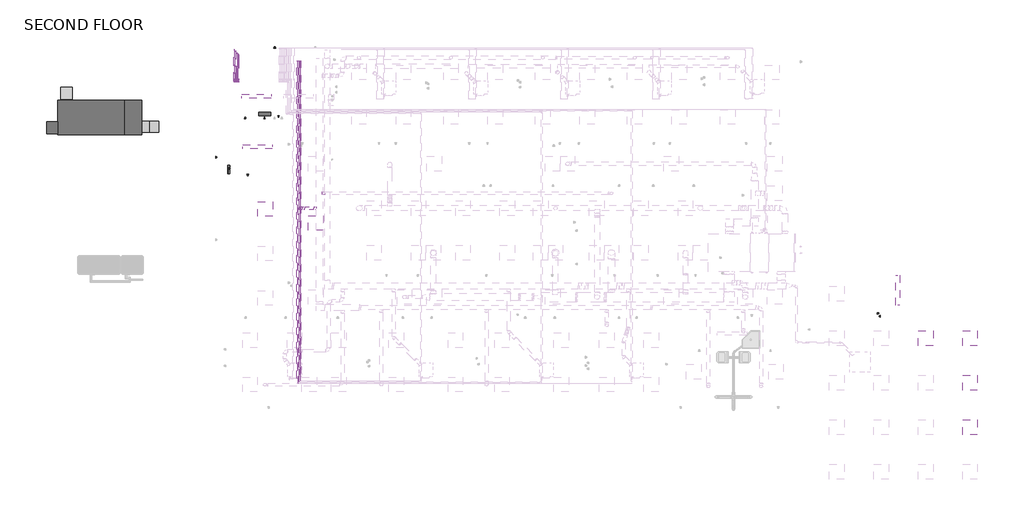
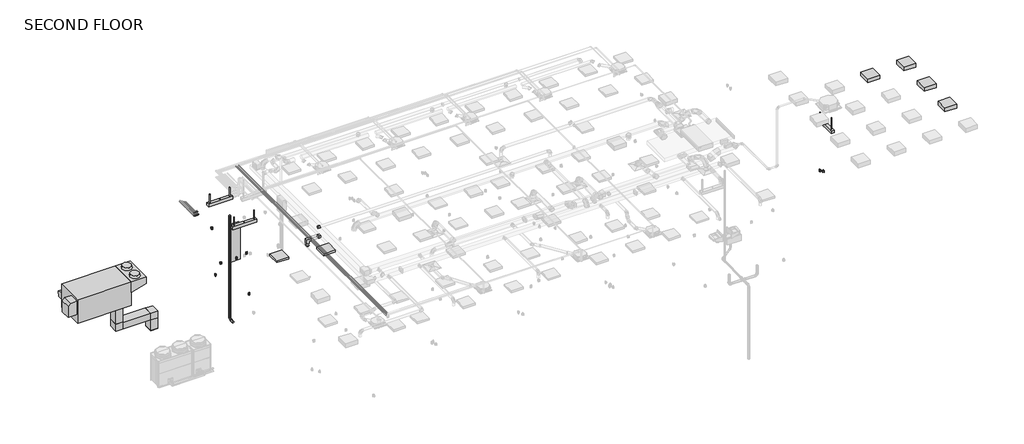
# One storey, part 6 of 12: 22 pipe segments, 19 pipe fittings, 9 light fixtures, 7 duct fittings, 7 proxies, 5 duct segments, 2 switching devices, 1 electric appliance.
"""IFC4 building model written with IfcOpenShell, lengths in millimetres."""

from ifc_helpers import new_model, si_unit, point, frame, frame_2d, origin, place, context, project, spatial, polyline, circle_curve, trimmed, segment, composite_curve, outline, extrude, transform, mapped, element, save
from components import duplex_receptacle_countertop_10251bba, erv_unit_62530c4e, lighting_and_appliance_panelboard_208v_mcb_surface_400_a_1492eeec, rectangular_elbow_mitered_transition_standard_b8ebfeb0, rectangular_elbow_mitered_standard_39dc9af9, rectangular_endcap_standard_943f7e42, rectangular_takeoff_standard_69442764, rectangular_to_round_transition_angle_45_degree_d16902a5, round_takeoff_standard_7fe2b2d5, telephone_outlet_data_plain_18c24199, suspended_fluorescent_strip_non_hosted_strip_light_1x4_120v_a3f3b401, suspended_fluorescent_strip_non_hosted_strip_light_1x4_120v_a5e6163e, troffer_corner_insert_2x2_3_lamp_emergency_29e3a813, troffer_corner_insert_2x2_3lamp_e67c7f8f, bend_pvc_sch_40_dwv_standard_f7db62e3, elbow_generic_standard_c06ac706, elbow_generic_standard_a088f956, elbow_generic_standard_ad6a8f26, transition_generic_standard_0bb1ffaf

model = new_model("IFC4")

# Units and contexts
model_context = context("Model", 3, world=origin())
ifc_project = project(units=[si_unit("LENGTHUNIT", "METRE", prefix="MILLI")], contexts=[model_context])

# Site, building, storey
site = spatial("IfcSite", under=ifc_project)
building = spatial("IfcBuilding", under=site)
storey = spatial("IfcBuildingStorey", under=building, Name="SECOND FLOOR", Elevation=34544.0)

# Proxies
placement = place(None, origin())
duplex_receptacle_countertop_shape = duplex_receptacle_countertop_10251bba(model_context)
element("IfcBuildingElementProxy", 1, Name="Duplex Receptacle : Exterior", ObjectType="Duplex Receptacle : Exterior", at=placement, inside=storey, context=model_context, shape_type="MappedRepresentation", body=[
    mapped(duplex_receptacle_countertop_shape, transform((-10616.2454607, 3175.2222588, 35763.2), x_axis=(0.0, -1.0, 0.0), y_axis=(0.0, 0.0, 1.0), z_axis=(-1.0, 0.0, 0.0))),
])
element("IfcBuildingElementProxy", 2, Name="Duplex Receptacle : Standard", ObjectType="Duplex Receptacle : Standard", at=placement, inside=storey, context=model_context, shape_type="MappedRepresentation", body=[
    mapped(duplex_receptacle_countertop_shape, transform((-9404.6633655, 4757.1445005, 35001.2), x_axis=(1.0, 0.0, 0.0), y_axis=(0.0, 0.0, 1.0), z_axis=(0.0, -1.0, 0.0))),
])
element("IfcBuildingElementProxy", 3, Name="Duplex Receptacle : Standard", ObjectType="Duplex Receptacle : Standard", at=placement, inside=storey, context=model_context, shape_type="MappedRepresentation", body=[
    mapped(duplex_receptacle_countertop_shape, transform((-8606.7536655, 4757.1445005, 35001.2), x_axis=(1.0, 0.0, 0.0), y_axis=(0.0, 0.0, 1.0), z_axis=(0.0, -1.0, 0.0))),
])
element("IfcBuildingElementProxy", 4, Name="Duplex Receptacle : Standard", ObjectType="Duplex Receptacle : Standard", at=placement, inside=storey, context=model_context, shape_type="MappedRepresentation", body=[
    mapped(duplex_receptacle_countertop_shape, transform((-9296.8227016, 2471.1445005, 34696.4), x_axis=(-1.0, 0.0, 0.0), y_axis=(0.0, 0.0, 1.0), z_axis=(0.0, 1.0, 0.0))),
])
element("IfcBuildingElementProxy", 5, Name="Duplex Receptacle : Standard", ObjectType="Duplex Receptacle : Standard", at=placement, inside=storey, context=model_context, shape_type="MappedRepresentation", body=[
    mapped(duplex_receptacle_countertop_shape, transform((-8185.6346572, 7671.7945005, 34696.4), x_axis=(1.0, 0.0, 0.0), y_axis=(0.0, 0.0, 1.0), z_axis=(0.0, -1.0, 0.0))),
])
erv_unit_shape = erv_unit_62530c4e(model_context)
element("IfcBuildingElementProxy", 6, Name="Energy Recovery-ER_H : ERV Unit", ObjectType="Energy Recovery-ER_H : ERV Unit", at=placement, inside=storey, context=model_context, shape_type="MappedRepresentation", body=[
    mapped(erv_unit_shape, transform((-16940.9565088, 4788.6445412, 34899.6), x_axis=(1.0000000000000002, 0.0, 0.0), y_axis=(0.0, 1.0000000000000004, 0.0), z_axis=(0.0, 0.0, 1.0000000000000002))),
])
lighting_and_appliance_panelboard_208v_mcb_surface_400_a_shape = lighting_and_appliance_panelboard_208v_mcb_surface_400_a_1492eeec(model_context)
element("IfcBuildingElementProxy", 7, Name="Lighting and Appliance Panelboard - 208V MCB - Surface : 400 A", ObjectType="Lighting and Appliance Panelboard - 208V MCB - Surface : 400 A", at=placement, inside=storey, context=model_context, shape_type="MappedRepresentation", body=[
    mapped(lighting_and_appliance_panelboard_208v_mcb_surface_400_a_shape, transform((-8504.4074234, 4880.9695005, 35999.3056703), x_axis=(-1.0, 0.0, 0.0), y_axis=(0.0, 0.0, 1.0), z_axis=(0.0, 1.0, 0.0))),
])

# Duct fittings
rectangular_elbow_mitered_transition_standard_shape = rectangular_elbow_mitered_transition_standard_b8ebfeb0(model_context)
element("IfcDuctFitting", 8, ObjectType="Rectangular Elbow - Mitered - Transition : Standard", at=placement, inside=storey, context=model_context, shape_type="MappedRepresentation", body=[
    mapped(rectangular_elbow_mitered_transition_standard_shape, transform((-7114.2204607, 1077.3195005, 37693.6), x_axis=(-1.0, 0.0, 0.0), y_axis=(0.0, 0.0, -1.0), z_axis=(0.0, -1.0, 0.0))),
])
rectangular_elbow_mitered_standard_shape = rectangular_elbow_mitered_standard_39dc9af9(model_context)
element("IfcDuctFitting", 9, ObjectType="Rectangular Elbow - Mitered : Standard", at=placement, inside=storey, context=model_context, shape_type="MappedRepresentation", body=[
    mapped(rectangular_elbow_mitered_standard_shape, transform((-14924.7204607, 4430.1195005, 33832.8), x_axis=(0.0, 0.0, -1.0), y_axis=(1.0, 0.0, 0.0), z_axis=(0.0, -1.0, 0.0))),
])
element("IfcDuctFitting", 10, ObjectType="Rectangular Elbow - Mitered : Standard", at=placement, inside=storey, context=model_context, shape_type="MappedRepresentation", body=[
    mapped(rectangular_elbow_mitered_standard_shape, transform((-13138.544811, 4430.1195005, 33832.8), x_axis=(0.0, 0.0, 1.0), y_axis=(-1.0, 0.0, 0.0), z_axis=(0.0, -1.0, 0.0))),
])
rectangular_endcap_standard_shape = rectangular_endcap_standard_943f7e42(model_context)
element("IfcDuctFitting", 11, ObjectType="Rectangular Endcap : Standard", at=placement, inside=storey, context=model_context, shape_type="MappedRepresentation", body=[
    mapped(rectangular_endcap_standard_shape, transform((-13138.544811, 4430.1195005, 33070.8), x_axis=(0.0, 0.0, -1.0), y_axis=(0.0, 1.0, 0.0), z_axis=(1.0, 0.0, 0.0))),
])
rectangular_takeoff_standard_shape = rectangular_takeoff_standard_69442764(model_context)
element("IfcDuctFitting", 12, ObjectType="Rectangular Takeoff : Standard", at=placement, inside=storey, context=model_context, shape_type="MappedRepresentation", body=[
    mapped(rectangular_takeoff_standard_shape, transform((-6474.3126806, 1077.3195005, 37693.6), x_axis=(-1.0, 0.0, 0.0), y_axis=(0.0, 1.0, 0.0), z_axis=(0.0, 0.0, -1.0))),
])
rectangular_to_round_transition_angle_45_degree_shape = rectangular_to_round_transition_angle_45_degree_d16902a5(model_context)
element("IfcDuctFitting", 13, ObjectType="Rectangular to Round Transition - Angle : 45 Degree", at=placement, inside=storey, context=model_context, shape_type="MappedRepresentation", body=[
    mapped(rectangular_to_round_transition_angle_45_degree_shape, transform((-7114.2204607, 1077.3195005, 37420.55), x_axis=(0.0, 0.0, -1.0), y_axis=(-1.0, 0.0, 0.0), z_axis=(0.0, 1.0, 0.0))),
])
round_takeoff_standard_shape = round_takeoff_standard_7fe2b2d5(model_context)
element("IfcDuctFitting", 14, ObjectType="Round Takeoff : Standard", at=placement, inside=storey, context=model_context, shape_type="MappedRepresentation", body=[
    mapped(round_takeoff_standard_shape, transform((-6220.3126806, 1686.9195005, 37693.6), x_axis=(1.0, 0.0, 0.0), y_axis=(0.0, 1.0, 0.0), z_axis=(0.0, 0.0, 1.0))),
])

# Duct segments
element("IfcDuctSegment", 15, ObjectType="Mitered Elbows / Taps", at=placement, inside=storey, context=model_context, shape_type="SweptSolid", body=[
    extrude(outline(polyline([(-13316.344811, 4658.7195005), (-12960.744811, 4658.7195005), (-12960.744811, 4201.5195005), (-13316.344811, 4201.5195005), (-13316.344811, 4658.7195005)])), frame((0.0, 0.0, 33070.8), z_axis=(0.0, 0.0, 1.0), x_axis=(1.0, 0.0, 0.0)), (0.0, 0.0, 1.0), 558.8),
])
element("IfcDuctSegment", 16, ObjectType="Mitered Elbows / Taps", at=placement, inside=storey, context=model_context, shape_type="SweptSolid", body=[
    extrude(outline(polyline([(-15102.5204607, 4658.7195005), (-14746.9204607, 4658.7195005), (-14746.9204607, 4201.5195005), (-15102.5204607, 4201.5195005), (-15102.5204607, 4658.7195005)])), frame((0.0, 0.0, 34036.0), z_axis=(0.0, 0.0, 1.0), x_axis=(1.0, 0.0, 0.0)), (0.0, 0.0, 1.0), 812.8),
])
element("IfcDuctSegment", 17, ObjectType="Mitered Elbows / Taps", at=placement, inside=storey, context=model_context, shape_type="SweptSolid", body=[
    extrude(outline(polyline([(-14721.5204607, 4201.5195005), (-14721.5204607, 4658.7195005), (-13341.744811, 4658.7195005), (-13341.744811, 4201.5195005), (-14721.5204607, 4201.5195005)])), frame((0.0, 0.0, 33655.0), z_axis=(0.0, 0.0, 1.0), x_axis=(1.0, 0.0, 0.0)), (0.0, 0.0, 1.0), 355.6),
])
element("IfcDuctSegment", 18, ObjectType="Mitered Elbows / Taps", at=placement, inside=storey, context=model_context, shape_type="SweptSolid", body=[
    extrude(outline(polyline([(-7050.7204607, 1013.8195005), (-7177.7204607, 1013.8195005), (-7177.7204607, 1140.8195005), (-7050.7204607, 1140.8195005), (-7050.7204607, 1013.8195005)])), frame((0.0, 0.0, 37420.55), z_axis=(0.0, 0.0, 1.0), x_axis=(1.0, 0.0, 0.0)), (0.0, 0.0, 1.0), 107.95),
])
element("IfcDuctSegment", 19, ObjectType="Mitered Elbows / Taps", at=placement, inside=storey, context=model_context, shape_type="SweptSolid", body=[
    extrude(outline(polyline([(-6575.9126806, 1140.8195005), (-6575.9126806, 1013.8195005), (-6949.1204607, 1013.8195005), (-6949.1204607, 1140.8195005), (-6575.9126806, 1140.8195005)])), frame((0.0, 0.0, 37630.1), z_axis=(0.0, 0.0, 1.0), x_axis=(1.0, 0.0, 0.0)), (0.0, 0.0, 1.0), 127.0),
])

# Electric appliance
telephone_outlet_data_plain_shape = telephone_outlet_data_plain_18c24199(model_context)
element("IfcElectricAppliance", 20, ObjectType="Telephone Outlet - Data : Plain", at=placement, inside=storey, context=model_context, shape_type="MappedRepresentation", body=[
    mapped(telephone_outlet_data_plain_shape, transform((-8911.5173872, 4880.9695005, 34143.95), x_axis=(-1.0, 0.0, 0.0), y_axis=(0.0, 0.0, 1.0), z_axis=(0.0, 1.0, 0.0))),
])

# Light fixtures
suspended_fluorescent_strip_non_hosted_strip_light_1x4_120v_shape = suspended_fluorescent_strip_non_hosted_strip_light_1x4_120v_a3f3b401(model_context)
element("IfcLightFixture", 21, ObjectType="Suspended Fluorescent Strip - Non-Hosted : Strip Light 1x4 - 120V Normal", at=placement, inside=storey, context=model_context, shape_type="MappedRepresentation", body=[
    mapped(suspended_fluorescent_strip_non_hosted_strip_light_1x4_120v_shape, transform((-8934.2892107, 5679.9210752, 37592.0), x_axis=(1.0, 0.0, 0.0), y_axis=(0.0, 1.0, 0.0), z_axis=(0.0, 0.0, 1.0))),
])
element("IfcLightFixture", 22, ObjectType="Suspended Fluorescent Strip - Non-Hosted : Strip Light 1x4 - 120V Normal", at=placement, inside=storey, context=model_context, shape_type="MappedRepresentation", body=[
    mapped(suspended_fluorescent_strip_non_hosted_strip_light_1x4_120v_shape, transform((-8889.8863587, 3607.272796, 37592.0), x_axis=(1.0, 0.0, 0.0), y_axis=(0.0, 1.0, 0.0), z_axis=(0.0, 0.0, 1.0))),
])
suspended_fluorescent_strip_non_hosted_strip_light_1x4_120v_2_shape = suspended_fluorescent_strip_non_hosted_strip_light_1x4_120v_a5e6163e(model_context)
element("IfcLightFixture", 23, ObjectType="Suspended Fluorescent Strip - Non-Hosted : Strip Light 1x4 - 120V Normal", at=placement, inside=storey, context=model_context, shape_type="MappedRepresentation", body=[
    mapped(suspended_fluorescent_strip_non_hosted_strip_light_1x4_120v_2_shape, transform((17450.9604425, -2302.0646313, 37287.2), x_axis=(0.0, 1.0000000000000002, 0.0), y_axis=(-1.0000000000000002, 0.0, 0.0), z_axis=(0.0, 0.0, 1.0))),
])
troffer_corner_insert_2x2_3_lamp_emergency_shape = troffer_corner_insert_2x2_3_lamp_emergency_29e3a813(model_context)
element("IfcLightFixture", 24, ObjectType="Troffer Corner Insert : 2x2 3 Lamp Emergency", at=placement, inside=storey, context=model_context, shape_type="MappedRepresentation", body=[
    mapped(troffer_corner_insert_2x2_3_lamp_emergency_shape, transform((20424.7445338, -6104.5304995, 38303.2), x_axis=(1.0, 0.0, 0.0), y_axis=(0.0, 1.0, 0.0), z_axis=(0.0, 0.0, 1.0))),
])
troffer_corner_insert_2x2_3lamp_shape = troffer_corner_insert_2x2_3lamp_e67c7f8f(model_context)
element("IfcLightFixture", 25, ObjectType="Troffer Corner Insert : 2x2 3Lamp", at=placement, inside=storey, context=model_context, shape_type="MappedRepresentation", body=[
    mapped(troffer_corner_insert_2x2_3lamp_shape, transform((-6504.6204607, 467.7195005, 34848.8), x_axis=(1.0, 0.0, 0.0), y_axis=(0.0, 1.0, 0.0), z_axis=(0.0, 0.0, 1.0))),
])
element("IfcLightFixture", 26, ObjectType="Troffer Corner Insert : 2x2 3Lamp", at=placement, inside=storey, context=model_context, shape_type="MappedRepresentation", body=[
    mapped(troffer_corner_insert_2x2_3lamp_shape, transform((-8574.7204607, 1040.8070005, 34848.8), x_axis=(1.0, 0.0, 0.0), y_axis=(0.0, 1.0, 0.0), z_axis=(0.0, 0.0, 1.0))),
])
element("IfcLightFixture", 27, ObjectType="Troffer Corner Insert : 2x2 3Lamp High Profile", at=placement, inside=storey, context=model_context, shape_type="MappedRepresentation", body=[
    mapped(troffer_corner_insert_2x2_3_lamp_emergency_shape, transform((20424.7445338, -7933.3304995, 38303.2), x_axis=(1.0, 0.0, 0.0), y_axis=(0.0, 1.0, 0.0), z_axis=(0.0, 0.0, 1.0))),
])
element("IfcLightFixture", 28, ObjectType="Troffer Corner Insert : 2x2 3Lamp High Profile", at=placement, inside=storey, context=model_context, shape_type="MappedRepresentation", body=[
    mapped(troffer_corner_insert_2x2_3_lamp_emergency_shape, transform((18595.9445338, -4275.7304995, 38303.2), x_axis=(1.0, 0.0, 0.0), y_axis=(0.0, 1.0, 0.0), z_axis=(0.0, 0.0, 1.0))),
])
element("IfcLightFixture", 29, ObjectType="Troffer Corner Insert : 2x2 3Lamp High Profile", at=placement, inside=storey, context=model_context, shape_type="MappedRepresentation", body=[
    mapped(troffer_corner_insert_2x2_3_lamp_emergency_shape, transform((20424.7445338, -4275.7304995, 38303.2), x_axis=(1.0, 0.0, 0.0), y_axis=(0.0, 1.0, 0.0), z_axis=(0.0, 0.0, 1.0))),
])

# Pipe fittings
bend_pvc_sch_40_dwv_standard_shape = bend_pvc_sch_40_dwv_standard_f7db62e3(model_context)
element("IfcPipeFitting", 30, ObjectType="Bend - PVC - Sch 40 - DWV : Standard", at=placement, inside=storey, context=model_context, shape_type="MappedRepresentation", body=[
    mapped(bend_pvc_sch_40_dwv_standard_shape, transform((-10076.4954607, 2802.8315733, 33416.4117738), x_axis=(0.0, 0.9999456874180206, 0.01042219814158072), y_axis=(0.0, -0.01042219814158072, 0.9999456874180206), z_axis=(1.0, 0.0, 0.0))),
])
elbow_generic_standard_shape = elbow_generic_standard_c06ac706(model_context)
element("IfcPipeFitting", 31, ObjectType="Elbow - Generic : Standard", at=placement, inside=storey, context=model_context, shape_type="MappedRepresentation", body=[
    mapped(elbow_generic_standard_shape, transform((-9866.3353043, 6273.907626, 36811.1484375), x_axis=(0.0, -1.0, 0.0), y_axis=(0.0, 0.0, 1.0), z_axis=(-1.0, 0.0, 0.0))),
])
element("IfcPipeFitting", 32, ObjectType="Elbow - Generic : Standard", at=placement, inside=storey, context=model_context, shape_type="MappedRepresentation", body=[
    mapped(elbow_generic_standard_shape, transform((-9866.3353043, 6273.907626, 36830.0), x_axis=(0.0, 0.0, 1.0), y_axis=(0.0, 1.0, 0.0), z_axis=(-1.0, 0.0, 0.0))),
])
element("IfcPipeFitting", 33, ObjectType="Elbow - Generic : Standard", at=placement, inside=storey, context=model_context, shape_type="MappedRepresentation", body=[
    mapped(elbow_generic_standard_shape, transform((-9806.3353043, 6273.9076209, 36811.1484375), x_axis=(0.0, -1.0, 0.0), y_axis=(0.0, 0.0, 1.0), z_axis=(-1.0, 0.0, 0.0))),
])
element("IfcPipeFitting", 34, ObjectType="Elbow - Generic : Standard", at=placement, inside=storey, context=model_context, shape_type="MappedRepresentation", body=[
    mapped(elbow_generic_standard_shape, transform((-9806.3353043, 6273.9076209, 36830.0), x_axis=(0.0, 0.0, 1.0), y_axis=(0.0, 1.0, 0.0), z_axis=(-1.0, 0.0, 0.0))),
])
element("IfcPipeFitting", 35, ObjectType="Elbow - Generic : Standard", at=placement, inside=storey, context=model_context, shape_type="MappedRepresentation", body=[
    mapped(elbow_generic_standard_shape, transform((-9746.3353043, 6273.9076209, 36811.1484375), x_axis=(0.0, -1.0, 0.0), y_axis=(0.0, 0.0, 1.0), z_axis=(-1.0, 0.0, 0.0))),
])
element("IfcPipeFitting", 36, ObjectType="Elbow - Generic : Standard", at=placement, inside=storey, context=model_context, shape_type="MappedRepresentation", body=[
    mapped(elbow_generic_standard_shape, transform((-9746.3353043, 6273.9076209, 36830.0), x_axis=(0.0, 0.0, 1.0), y_axis=(0.0, 1.0, 0.0), z_axis=(-1.0, 0.0, 0.0))),
])
element("IfcPipeFitting", 37, ObjectType="Elbow - Generic : Standard", at=placement, inside=storey, context=model_context, shape_type="MappedRepresentation", body=[
    mapped(elbow_generic_standard_shape, transform((-9686.3353043, 6273.9076209, 36811.1484375), x_axis=(0.0, -1.0, 0.0), y_axis=(0.0, 0.0, 1.0), z_axis=(-1.0, 0.0, 0.0))),
])
element("IfcPipeFitting", 38, ObjectType="Elbow - Generic : Standard", at=placement, inside=storey, context=model_context, shape_type="MappedRepresentation", body=[
    mapped(elbow_generic_standard_shape, transform((-9686.3353043, 6273.9076209, 36830.0), x_axis=(0.0, 0.0, 1.0), y_axis=(0.0, 1.0, 0.0), z_axis=(-1.0, 0.0, 0.0))),
])
elbow_generic_standard_2_shape = elbow_generic_standard_a088f956(model_context)
element("IfcPipeFitting", 39, ObjectType="Elbow - Generic : Standard", at=placement, inside=storey, context=model_context, shape_type="MappedRepresentation", body=[
    mapped(elbow_generic_standard_2_shape, transform((-9866.3353043, 6324.7076245, 36779.2), x_axis=(0.0, 0.0, 1.0), y_axis=(0.0, 1.0, 0.0), z_axis=(-1.0, 0.0, 0.0))),
])
element("IfcPipeFitting", 40, ObjectType="Elbow - Generic : Standard", at=placement, inside=storey, context=model_context, shape_type="MappedRepresentation", body=[
    mapped(elbow_generic_standard_2_shape, transform((-9806.3353043, 6324.7076209, 36779.2), x_axis=(0.0, 0.0, 1.0), y_axis=(0.0, 1.0, 0.0), z_axis=(-1.0, 0.0, 0.0))),
])
element("IfcPipeFitting", 41, ObjectType="Elbow - Generic : Standard", at=placement, inside=storey, context=model_context, shape_type="MappedRepresentation", body=[
    mapped(elbow_generic_standard_2_shape, transform((-9746.3353043, 6324.7076209, 36779.2), x_axis=(0.0, 0.0, 1.0), y_axis=(0.0, 1.0, 0.0), z_axis=(-1.0, 0.0, 0.0))),
])
element("IfcPipeFitting", 42, ObjectType="Elbow - Generic : Standard", at=placement, inside=storey, context=model_context, shape_type="MappedRepresentation", body=[
    mapped(elbow_generic_standard_2_shape, transform((-9686.3353043, 6324.7076209, 36779.2), x_axis=(0.0, 0.0, 1.0), y_axis=(0.0, 1.0, 0.0), z_axis=(-1.0, 0.0, 0.0))),
])
elbow_generic_standard_3_shape = elbow_generic_standard_ad6a8f26(model_context)
element("IfcPipeFitting", 43, ObjectType="Elbow - Generic : Standard", at=placement, inside=storey, context=model_context, shape_type="MappedRepresentation", body=[
    mapped(elbow_generic_standard_3_shape, transform((-9866.3353043, 6324.7076245, 36941.125), x_axis=(0.0, -0.9999999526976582, -0.00030757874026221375), y_axis=(0.0, -0.00030757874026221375, 0.9999999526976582), z_axis=(-1.0, 0.0, 0.0))),
])
element("IfcPipeFitting", 44, ObjectType="Elbow - Generic : Standard", at=placement, inside=storey, context=model_context, shape_type="MappedRepresentation", body=[
    mapped(elbow_generic_standard_3_shape, transform((-9806.3353043, 6324.7076209, 36941.125), x_axis=(0.0, -0.9999999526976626, -0.0003075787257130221), y_axis=(0.0, -0.0003075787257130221, 0.9999999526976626), z_axis=(-1.0, 0.0, 0.0))),
])
element("IfcPipeFitting", 45, ObjectType="Elbow - Generic : Standard", at=placement, inside=storey, context=model_context, shape_type="MappedRepresentation", body=[
    mapped(elbow_generic_standard_3_shape, transform((-9746.3353043, 6324.7076209, 36941.125), x_axis=(0.0, -0.9999999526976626, -0.0003075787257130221), y_axis=(0.0, -0.0003075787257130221, 0.9999999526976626), z_axis=(-1.0, 0.0, 0.0))),
])
element("IfcPipeFitting", 46, ObjectType="Elbow - Generic : Standard", at=placement, inside=storey, context=model_context, shape_type="MappedRepresentation", body=[
    mapped(elbow_generic_standard_3_shape, transform((-9686.3353043, 6324.7076209, 36941.125), x_axis=(0.0, -0.9999999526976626, -0.0003075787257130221), y_axis=(0.0, -0.0003075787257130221, 0.9999999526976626), z_axis=(-1.0, 0.0, 0.0))),
])
transition_generic_standard_shape = transition_generic_standard_0bb1ffaf(model_context)
element("IfcPipeFitting", 47, ObjectType="Transition - Generic : Standard", at=placement, inside=storey, context=model_context, shape_type="MappedRepresentation", body=[
    mapped(transition_generic_standard_shape, transform((-9866.3353043, 6338.9951245, 36779.2), x_axis=(0.0, 1.0, 0.0), y_axis=(-1.0, 0.0, 0.0), z_axis=(0.0, 0.0, 1.0))),
])
element("IfcPipeFitting", 48, ObjectType="Transition - Generic : Standard", at=placement, inside=storey, context=model_context, shape_type="MappedRepresentation", body=[
    mapped(transition_generic_standard_shape, transform((-9806.3353043, 6338.9951209, 36779.2), x_axis=(0.0, 1.0, 0.0), y_axis=(-1.0, 0.0, 0.0), z_axis=(0.0, 0.0, 1.0))),
])

# Pipe segments
element("IfcPipeSegment", 49, ObjectType="Copper Tubing", at=placement, inside=storey, context=model_context, shape_type="SweptSolid", body=[
    extrude(outline(composite_curve([segment(trimmed(circle_curve(frame_2d((38049.2, -7265.9854607)), 7.9375), [point((38049.2, -7258.0479607))], [point((38057.1375, -7265.9854607))], False, "CARTESIAN"), True, "CONTINUOUS"), segment(trimmed(circle_curve(frame_2d((38049.2, -7265.9854607)), 7.9375), [point((38057.1375, -7265.9854607))], [point((38049.2, -7273.9229607))], False, "CARTESIAN"), True, "CONTINUOUS"), segment(trimmed(circle_curve(frame_2d((38049.2, -7265.9854607)), 7.9375), [point((38049.2, -7273.9229607))], [point((38041.2625, -7265.9854607))], False, "CARTESIAN"), True, "CONTINUOUS"), segment(trimmed(circle_curve(frame_2d((38049.2, -7265.9854607)), 7.9375), [point((38041.2625, -7265.9854607))], [point((38049.2, -7258.0479607))], False, "CARTESIAN"), True, "CONTINUOUS")], self_intersect=False)), frame((0.0, -5917.2054995, 0.0), z_axis=(0.0, 1.0, 0.0), x_axis=(0.0, 0.0, 1.0)), (0.0, 0.0, 1.0), 13066.7125),
])
element("IfcPipeSegment", 50, ObjectType="Copper Tubing", at=placement, inside=storey, context=model_context, shape_type="SweptSolid", body=[
    extrude(outline(composite_curve([segment(trimmed(circle_curve(frame_2d((37998.4, -7215.1854607)), 7.9375), [point((37998.4, -7207.2479607))], [point((38006.3375, -7215.1854607))], False, "CARTESIAN"), True, "CONTINUOUS"), segment(trimmed(circle_curve(frame_2d((37998.4, -7215.1854607)), 7.9375), [point((38006.3375, -7215.1854607))], [point((37998.4, -7223.1229607))], False, "CARTESIAN"), True, "CONTINUOUS"), segment(trimmed(circle_curve(frame_2d((37998.4, -7215.1854607)), 7.9375), [point((37998.4, -7223.1229607))], [point((37990.4625, -7215.1854607))], False, "CARTESIAN"), True, "CONTINUOUS"), segment(trimmed(circle_curve(frame_2d((37998.4, -7215.1854607)), 7.9375), [point((37990.4625, -7215.1854607))], [point((37998.4, -7207.2479607))], False, "CARTESIAN"), True, "CONTINUOUS")], self_intersect=False)), frame((0.0, -6120.4054995, 0.0), z_axis=(0.0, 1.0, 0.0), x_axis=(0.0, 0.0, 1.0)), (0.0, 0.0, 1.0), 13269.9125),
])
element("IfcPipeSegment", 51, ObjectType="Copper Tubing", at=placement, inside=storey, context=model_context, shape_type="SweptSolid", body=[
    extrude(outline(composite_curve([segment(trimmed(circle_curve(frame_2d((37998.4, -7164.3854607)), 7.9375), [point((37998.4, -7172.3229607))], [point((37990.4625, -7164.3854607))], False, "CARTESIAN"), True, "CONTINUOUS"), segment(trimmed(circle_curve(frame_2d((37998.4, -7164.3854607)), 7.9375), [point((37990.4625, -7164.3854607))], [point((37998.4, -7156.4479607))], False, "CARTESIAN"), True, "CONTINUOUS"), segment(trimmed(circle_curve(frame_2d((37998.4, -7164.3854607)), 7.9375), [point((37998.4, -7156.4479607))], [point((38006.3375, -7164.3854607))], False, "CARTESIAN"), True, "CONTINUOUS"), segment(trimmed(circle_curve(frame_2d((37998.4, -7164.3854607)), 7.9375), [point((38006.3375, -7164.3854607))], [point((37998.4, -7172.3229607))], False, "CARTESIAN"), True, "CONTINUOUS")], self_intersect=False)), frame((0.0, -6069.6054995, 0.0), z_axis=(0.0, 1.0, 0.0), x_axis=(0.0, 0.0, 1.0)), (0.0, 0.0, 1.0), 13219.1125),
])
element("IfcPipeSegment", 52, ObjectType="Copper Tubing", at=placement, inside=storey, context=model_context, shape_type="SweptSolid", body=[
    extrude(outline(composite_curve([segment(trimmed(circle_curve(frame_2d((38049.2, -7113.5854607)), 7.9375), [point((38049.2, -7121.5229607))], [point((38041.2625, -7113.5854607))], False, "CARTESIAN"), True, "CONTINUOUS"), segment(trimmed(circle_curve(frame_2d((38049.2, -7113.5854607)), 7.9375), [point((38041.2625, -7113.5854607))], [point((38049.2, -7105.6479607))], False, "CARTESIAN"), True, "CONTINUOUS"), segment(trimmed(circle_curve(frame_2d((38049.2, -7113.5854607)), 7.9375), [point((38049.2, -7105.6479607))], [point((38057.1375, -7113.5854607))], False, "CARTESIAN"), True, "CONTINUOUS"), segment(trimmed(circle_curve(frame_2d((38049.2, -7113.5854607)), 7.9375), [point((38057.1375, -7113.5854607))], [point((38049.2, -7121.5229607))], False, "CARTESIAN"), True, "CONTINUOUS")], self_intersect=False)), frame((0.0, -6018.8054995, 0.0), z_axis=(0.0, 1.0, 0.0), x_axis=(0.0, 0.0, 1.0)), (0.0, 0.0, 1.0), 13168.3125),
])
element("IfcPipeSegment", 53, ObjectType="Copper Tubing", at=placement, inside=storey, context=model_context, shape_type="SweptSolid", body=[
    extrude(outline(composite_curve([segment(trimmed(circle_curve(frame_2d((36811.1484375, -9866.3353043)), 14.2875), [point((36811.1484375, -9880.6228043))], [point((36796.8609375, -9866.3353043))], False, "CARTESIAN"), True, "CONTINUOUS"), segment(trimmed(circle_curve(frame_2d((36811.1484375, -9866.3353043)), 14.2875), [point((36796.8609375, -9866.3353043))], [point((36811.1484375, -9852.0478043))], False, "CARTESIAN"), True, "CONTINUOUS"), segment(trimmed(circle_curve(frame_2d((36811.1484375, -9866.3353043)), 14.2875), [point((36811.1484375, -9852.0478043))], [point((36825.4359375, -9866.3353043))], False, "CARTESIAN"), True, "CONTINUOUS"), segment(trimmed(circle_curve(frame_2d((36811.1484375, -9866.3353043)), 14.2875), [point((36825.4359375, -9866.3353043))], [point((36811.1484375, -9880.6228043))], False, "CARTESIAN"), True, "CONTINUOUS")], self_intersect=False)), frame((0.0, 6294.545126, 0.0), z_axis=(0.0, 1.0, 0.0), x_axis=(0.0, 0.0, 1.0)), (0.0, 0.0, 1.0), 106.3624949),
])
element("IfcPipeSegment", 54, ObjectType="Copper Tubing", at=placement, inside=storey, context=model_context, shape_type="SweptSolid", body=[
    extrude(outline(composite_curve([segment(trimmed(circle_curve(frame_2d((36811.1484375, -9806.3353043)), 14.2875), [point((36811.1484375, -9820.6228043))], [point((36796.8609375, -9806.3353043))], False, "CARTESIAN"), True, "CONTINUOUS"), segment(trimmed(circle_curve(frame_2d((36811.1484375, -9806.3353043)), 14.2875), [point((36796.8609375, -9806.3353043))], [point((36811.1484375, -9792.0478043))], False, "CARTESIAN"), True, "CONTINUOUS"), segment(trimmed(circle_curve(frame_2d((36811.1484375, -9806.3353043)), 14.2875), [point((36811.1484375, -9792.0478043))], [point((36825.4359375, -9806.3353043))], False, "CARTESIAN"), True, "CONTINUOUS"), segment(trimmed(circle_curve(frame_2d((36811.1484375, -9806.3353043)), 14.2875), [point((36825.4359375, -9806.3353043))], [point((36811.1484375, -9820.6228043))], False, "CARTESIAN"), True, "CONTINUOUS")], self_intersect=False)), frame((0.0, 6294.5451209, 0.0), z_axis=(0.0, 1.0, 0.0), x_axis=(0.0, 0.0, 1.0)), (0.0, 0.0, 1.0), 106.3625),
])
element("IfcPipeSegment", 55, ObjectType="Copper Tubing", at=placement, inside=storey, context=model_context, shape_type="SweptSolid", body=[
    extrude(outline(composite_curve([segment(trimmed(circle_curve(frame_2d((36811.1484375, -9746.3353043)), 14.2875), [point((36811.1484375, -9760.6228043))], [point((36796.8609375, -9746.3353043))], False, "CARTESIAN"), True, "CONTINUOUS"), segment(trimmed(circle_curve(frame_2d((36811.1484375, -9746.3353043)), 14.2875), [point((36796.8609375, -9746.3353043))], [point((36811.1484375, -9732.0478043))], False, "CARTESIAN"), True, "CONTINUOUS"), segment(trimmed(circle_curve(frame_2d((36811.1484375, -9746.3353043)), 14.2875), [point((36811.1484375, -9732.0478043))], [point((36825.4359375, -9746.3353043))], False, "CARTESIAN"), True, "CONTINUOUS"), segment(trimmed(circle_curve(frame_2d((36811.1484375, -9746.3353043)), 14.2875), [point((36825.4359375, -9746.3353043))], [point((36811.1484375, -9760.6228043))], False, "CARTESIAN"), True, "CONTINUOUS")], self_intersect=False)), frame((0.0, 6294.5451209, 0.0), z_axis=(0.0, 1.0, 0.0), x_axis=(0.0, 0.0, 1.0)), (0.0, 0.0, 1.0), 106.3625),
])
element("IfcPipeSegment", 56, ObjectType="Copper Tubing", at=placement, inside=storey, context=model_context, shape_type="SweptSolid", body=[
    extrude(outline(composite_curve([segment(trimmed(circle_curve(frame_2d((36811.1484375, -9686.3353043)), 14.2875), [point((36811.1484375, -9700.6228043))], [point((36796.8609375, -9686.3353043))], False, "CARTESIAN"), True, "CONTINUOUS"), segment(trimmed(circle_curve(frame_2d((36811.1484375, -9686.3353043)), 14.2875), [point((36796.8609375, -9686.3353043))], [point((36811.1484375, -9672.0478043))], False, "CARTESIAN"), True, "CONTINUOUS"), segment(trimmed(circle_curve(frame_2d((36811.1484375, -9686.3353043)), 14.2875), [point((36811.1484375, -9672.0478043))], [point((36825.4359375, -9686.3353043))], False, "CARTESIAN"), True, "CONTINUOUS"), segment(trimmed(circle_curve(frame_2d((36811.1484375, -9686.3353043)), 14.2875), [point((36825.4359375, -9686.3353043))], [point((36811.1484375, -9700.6228043))], False, "CARTESIAN"), True, "CONTINUOUS")], self_intersect=False)), frame((0.0, 6294.5451209, 0.0), z_axis=(0.0, 1.0, 0.0), x_axis=(0.0, 0.0, 1.0)), (0.0, 0.0, 1.0), 106.3625),
])
element("IfcPipeSegment", 57, ObjectType="Copper Tubing", at=placement, inside=storey, context=model_context, shape_type="SweptSolid", body=[
    extrude(outline(composite_curve([segment(trimmed(circle_curve(frame_2d((36830.0, -9866.3353043)), 14.2875), [point((36830.0, -9880.6228043))], [point((36815.7125, -9866.3353043))], False, "CARTESIAN"), True, "CONTINUOUS"), segment(trimmed(circle_curve(frame_2d((36830.0, -9866.3353043)), 14.2875), [point((36815.7125, -9866.3353043))], [point((36830.0, -9852.0478043))], False, "CARTESIAN"), True, "CONTINUOUS"), segment(trimmed(circle_curve(frame_2d((36830.0, -9866.3353043)), 14.2875), [point((36830.0, -9852.0478043))], [point((36844.2875, -9866.3353043))], False, "CARTESIAN"), True, "CONTINUOUS"), segment(trimmed(circle_curve(frame_2d((36830.0, -9866.3353043)), 14.2875), [point((36844.2875, -9866.3353043))], [point((36830.0, -9880.6228043))], False, "CARTESIAN"), True, "CONTINUOUS")], self_intersect=False)), frame((0.0, 6294.545126, 0.0), z_axis=(0.0, 1.0, 0.0), x_axis=(0.0, 0.0, 1.0)), (0.0, 0.0, 1.0), 1285.4774951),
])
element("IfcPipeSegment", 58, ObjectType="Copper Tubing", at=placement, inside=storey, context=model_context, shape_type="SweptSolid", body=[
    extrude(outline(composite_curve([segment(trimmed(circle_curve(frame_2d((36830.0, -9806.3353043)), 14.2875), [point((36830.0, -9820.6228043))], [point((36815.7125, -9806.3353043))], False, "CARTESIAN"), True, "CONTINUOUS"), segment(trimmed(circle_curve(frame_2d((36830.0, -9806.3353043)), 14.2875), [point((36815.7125, -9806.3353043))], [point((36830.0, -9792.0478043))], False, "CARTESIAN"), True, "CONTINUOUS"), segment(trimmed(circle_curve(frame_2d((36830.0, -9806.3353043)), 14.2875), [point((36830.0, -9792.0478043))], [point((36844.2875, -9806.3353043))], False, "CARTESIAN"), True, "CONTINUOUS"), segment(trimmed(circle_curve(frame_2d((36830.0, -9806.3353043)), 14.2875), [point((36844.2875, -9806.3353043))], [point((36830.0, -9820.6228043))], False, "CARTESIAN"), True, "CONTINUOUS")], self_intersect=False)), frame((0.0, 6294.5451209, 0.0), z_axis=(0.0, 1.0, 0.0), x_axis=(0.0, 0.0, 1.0)), (0.0, 0.0, 1.0), 1213.1553675),
])
element("IfcPipeSegment", 59, ObjectType="Copper Tubing", at=placement, inside=storey, context=model_context, shape_type="SweptSolid", body=[
    extrude(outline(composite_curve([segment(trimmed(circle_curve(frame_2d((36830.0, -9746.3353043)), 14.2875), [point((36830.0, -9760.6228043))], [point((36815.7125, -9746.3353043))], False, "CARTESIAN"), True, "CONTINUOUS"), segment(trimmed(circle_curve(frame_2d((36830.0, -9746.3353043)), 14.2875), [point((36815.7125, -9746.3353043))], [point((36830.0, -9732.0478043))], False, "CARTESIAN"), True, "CONTINUOUS"), segment(trimmed(circle_curve(frame_2d((36830.0, -9746.3353043)), 14.2875), [point((36830.0, -9732.0478043))], [point((36844.2875, -9746.3353043))], False, "CARTESIAN"), True, "CONTINUOUS"), segment(trimmed(circle_curve(frame_2d((36830.0, -9746.3353043)), 14.2875), [point((36844.2875, -9746.3353043))], [point((36830.0, -9760.6228043))], False, "CARTESIAN"), True, "CONTINUOUS")], self_intersect=False)), frame((0.0, 6294.5451209, 0.0), z_axis=(0.0, 1.0, 0.0), x_axis=(0.0, 0.0, 1.0)), (0.0, 0.0, 1.0), 1150.6102144),
])
element("IfcPipeSegment", 60, ObjectType="Copper Tubing", at=placement, inside=storey, context=model_context, shape_type="SweptSolid", body=[
    extrude(outline(composite_curve([segment(trimmed(circle_curve(frame_2d((36830.0, -9686.3353043)), 14.2875), [point((36830.0, -9700.6228043))], [point((36815.7125, -9686.3353043))], False, "CARTESIAN"), True, "CONTINUOUS"), segment(trimmed(circle_curve(frame_2d((36830.0, -9686.3353043)), 14.2875), [point((36815.7125, -9686.3353043))], [point((36830.0, -9672.0478043))], False, "CARTESIAN"), True, "CONTINUOUS"), segment(trimmed(circle_curve(frame_2d((36830.0, -9686.3353043)), 14.2875), [point((36830.0, -9672.0478043))], [point((36844.2875, -9686.3353043))], False, "CARTESIAN"), True, "CONTINUOUS"), segment(trimmed(circle_curve(frame_2d((36830.0, -9686.3353043)), 14.2875), [point((36844.2875, -9686.3353043))], [point((36830.0, -9700.6228043))], False, "CARTESIAN"), True, "CONTINUOUS")], self_intersect=False)), frame((0.0, 6294.5451209, 0.0), z_axis=(0.0, 1.0, 0.0), x_axis=(0.0, 0.0, 1.0)), (0.0, 0.0, 1.0), 1094.5188136),
])
element("IfcPipeSegment", 61, ObjectType="Copper Tubing", at=placement, inside=storey, context=model_context, shape_type="SweptSolid", body=[
    extrude(outline(composite_curve([segment(trimmed(circle_curve(frame_2d((0.0, -7.9375)), 7.9375), [point((0.0, 0.0))], [point((7.9375, -7.9375))], False, "CARTESIAN"), True, "CONTINUOUS"), segment(trimmed(circle_curve(frame_2d((0.0, -7.9375)), 7.9375), [point((7.9375, -7.9375))], [point((0.0, -15.875))], False, "CARTESIAN"), True, "CONTINUOUS"), segment(trimmed(circle_curve(frame_2d((0.0, -7.9375)), 7.9375), [point((0.0, -15.875))], [point((-7.9375, -7.9375))], False, "CARTESIAN"), True, "CONTINUOUS"), segment(trimmed(circle_curve(frame_2d((0.0, -7.9375)), 7.9375), [point((-7.9375, -7.9375))], [point((0.0, 0.0))], False, "CARTESIAN"), True, "CONTINUOUS")], self_intersect=False)), frame((-9874.2728043, 6338.9995191, 36941.1293959), z_axis=(0.0, 0.9999999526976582, 0.0003075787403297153), x_axis=(0.0, 0.0003075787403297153, -0.9999999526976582)), (0.0, 0.0, 1.0), 61.9081048),
])
element("IfcPipeSegment", 62, ObjectType="Copper Tubing", at=placement, inside=storey, context=model_context, shape_type="SweptSolid", body=[
    extrude(outline(composite_curve([segment(trimmed(circle_curve(frame_2d((0.0, -7.9375)), 7.9375), [point((0.0, 0.0))], [point((7.9375, -7.9375))], False, "CARTESIAN"), True, "CONTINUOUS"), segment(trimmed(circle_curve(frame_2d((0.0, -7.9375)), 7.9375), [point((7.9375, -7.9375))], [point((0.0, -15.875))], False, "CARTESIAN"), True, "CONTINUOUS"), segment(trimmed(circle_curve(frame_2d((0.0, -7.9375)), 7.9375), [point((0.0, -15.875))], [point((-7.9375, -7.9375))], False, "CARTESIAN"), True, "CONTINUOUS"), segment(trimmed(circle_curve(frame_2d((0.0, -7.9375)), 7.9375), [point((-7.9375, -7.9375))], [point((0.0, 0.0))], False, "CARTESIAN"), True, "CONTINUOUS")], self_intersect=False)), frame((-9814.2728043, 6338.9995154, 36941.1293959), z_axis=(0.0, 0.9999999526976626, 0.00030757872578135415), x_axis=(0.0, 0.00030757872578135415, -0.9999999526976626)), (0.0, 0.0, 1.0), 61.9081084),
])
element("IfcPipeSegment", 63, ObjectType="Copper Tubing", at=placement, inside=storey, context=model_context, shape_type="SweptSolid", body=[
    extrude(outline(composite_curve([segment(trimmed(circle_curve(frame_2d((0.0, -7.9375)), 7.9375), [point((0.0, 0.0))], [point((7.9375, -7.9375))], False, "CARTESIAN"), True, "CONTINUOUS"), segment(trimmed(circle_curve(frame_2d((0.0, -7.9375)), 7.9375), [point((7.9375, -7.9375))], [point((0.0, -15.875))], False, "CARTESIAN"), True, "CONTINUOUS"), segment(trimmed(circle_curve(frame_2d((0.0, -7.9375)), 7.9375), [point((0.0, -15.875))], [point((-7.9375, -7.9375))], False, "CARTESIAN"), True, "CONTINUOUS"), segment(trimmed(circle_curve(frame_2d((0.0, -7.9375)), 7.9375), [point((-7.9375, -7.9375))], [point((0.0, 0.0))], False, "CARTESIAN"), True, "CONTINUOUS")], self_intersect=False)), frame((-9754.2728043, 6338.9995154, 36941.1293959), z_axis=(0.0, 0.9999999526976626, 0.00030757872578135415), x_axis=(0.0, 0.00030757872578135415, -0.9999999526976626)), (0.0, 0.0, 1.0), 61.9081084),
])
element("IfcPipeSegment", 64, ObjectType="Copper Tubing", at=placement, inside=storey, context=model_context, shape_type="SweptSolid", body=[
    extrude(outline(composite_curve([segment(trimmed(circle_curve(frame_2d((0.0, -7.9375)), 7.9375), [point((0.0, 0.0))], [point((7.9375, -7.9375))], False, "CARTESIAN"), True, "CONTINUOUS"), segment(trimmed(circle_curve(frame_2d((0.0, -7.9375)), 7.9375), [point((7.9375, -7.9375))], [point((0.0, -15.875))], False, "CARTESIAN"), True, "CONTINUOUS"), segment(trimmed(circle_curve(frame_2d((0.0, -7.9375)), 7.9375), [point((0.0, -15.875))], [point((-7.9375, -7.9375))], False, "CARTESIAN"), True, "CONTINUOUS"), segment(trimmed(circle_curve(frame_2d((0.0, -7.9375)), 7.9375), [point((-7.9375, -7.9375))], [point((0.0, 0.0))], False, "CARTESIAN"), True, "CONTINUOUS")], self_intersect=False)), frame((-9694.2728043, 6338.9995154, 36941.1293959), z_axis=(0.0, 0.9999999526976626, 0.00030757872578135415), x_axis=(0.0, 0.00030757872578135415, -0.9999999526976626)), (0.0, 0.0, 1.0), 61.9081084),
])
element("IfcPipeSegment", 65, ObjectType="Copper Tubing", at=placement, inside=storey, context=model_context, shape_type="SweptSolid", body=[
    extrude(outline(composite_curve([segment(trimmed(circle_curve(frame_2d((36779.2, -9866.3353043)), 11.1125), [point((36779.2, -9877.4478043))], [point((36768.0875, -9866.3353043))], False, "CARTESIAN"), True, "CONTINUOUS"), segment(trimmed(circle_curve(frame_2d((36779.2, -9866.3353043)), 11.1125), [point((36768.0875, -9866.3353043))], [point((36779.2, -9855.2228043))], False, "CARTESIAN"), True, "CONTINUOUS"), segment(trimmed(circle_curve(frame_2d((36779.2, -9866.3353043)), 11.1125), [point((36779.2, -9855.2228043))], [point((36790.3125, -9866.3353043))], False, "CARTESIAN"), True, "CONTINUOUS"), segment(trimmed(circle_curve(frame_2d((36779.2, -9866.3353043)), 11.1125), [point((36790.3125, -9866.3353043))], [point((36779.2, -9877.4478043))], False, "CARTESIAN"), True, "CONTINUOUS")], self_intersect=False)), frame((0.0, 6344.5513745, 0.0), z_axis=(0.0, 1.0, 0.0), x_axis=(0.0, 0.0, 1.0)), (0.0, 0.0, 1.0), 1271.632313),
])
element("IfcPipeSegment", 66, ObjectType="Copper Tubing", at=placement, inside=storey, context=model_context, shape_type="SweptSolid", body=[
    extrude(outline(composite_curve([segment(trimmed(circle_curve(frame_2d((36779.2, -9806.3353043)), 11.1125), [point((36779.2, -9817.4478043))], [point((36768.0875, -9806.3353043))], False, "CARTESIAN"), True, "CONTINUOUS"), segment(trimmed(circle_curve(frame_2d((36779.2, -9806.3353043)), 11.1125), [point((36768.0875, -9806.3353043))], [point((36779.2, -9795.2228043))], False, "CARTESIAN"), True, "CONTINUOUS"), segment(trimmed(circle_curve(frame_2d((36779.2, -9806.3353043)), 11.1125), [point((36779.2, -9795.2228043))], [point((36790.3125, -9806.3353043))], False, "CARTESIAN"), True, "CONTINUOUS"), segment(trimmed(circle_curve(frame_2d((36779.2, -9806.3353043)), 11.1125), [point((36790.3125, -9806.3353043))], [point((36779.2, -9817.4478043))], False, "CARTESIAN"), True, "CONTINUOUS")], self_intersect=False)), frame((0.0, 6344.5513709, 0.0), z_axis=(0.0, 1.0, 0.0), x_axis=(0.0, 0.0, 1.0)), (0.0, 0.0, 1.0), 1205.6601839),
])
element("IfcPipeSegment", 67, ObjectType="Copper Tubing", at=placement, inside=storey, context=model_context, shape_type="SweptSolid", body=[
    extrude(outline(composite_curve([segment(trimmed(circle_curve(frame_2d((36779.2, -9746.3353043)), 7.9375), [point((36779.2, -9754.2728043))], [point((36771.2625, -9746.3353043))], False, "CARTESIAN"), True, "CONTINUOUS"), segment(trimmed(circle_curve(frame_2d((36779.2, -9746.3353043)), 7.9375), [point((36771.2625, -9746.3353043))], [point((36779.2, -9738.3978043))], False, "CARTESIAN"), True, "CONTINUOUS"), segment(trimmed(circle_curve(frame_2d((36779.2, -9746.3353043)), 7.9375), [point((36779.2, -9738.3978043))], [point((36787.1375, -9746.3353043))], False, "CARTESIAN"), True, "CONTINUOUS"), segment(trimmed(circle_curve(frame_2d((36779.2, -9746.3353043)), 7.9375), [point((36787.1375, -9746.3353043))], [point((36779.2, -9754.2728043))], False, "CARTESIAN"), True, "CONTINUOUS")], self_intersect=False)), frame((0.0, 6338.9951209, 0.0), z_axis=(0.0, 1.0, 0.0), x_axis=(0.0, 0.0, 1.0)), (0.0, 0.0, 1.0), 1142.0693012),
])
element("IfcPipeSegment", 68, ObjectType="Copper Tubing", at=placement, inside=storey, context=model_context, shape_type="SweptSolid", body=[
    extrude(outline(composite_curve([segment(trimmed(circle_curve(frame_2d((36779.2, -9686.3353043)), 7.9375), [point((36779.2, -9694.2728043))], [point((36771.2625, -9686.3353043))], False, "CARTESIAN"), True, "CONTINUOUS"), segment(trimmed(circle_curve(frame_2d((36779.2, -9686.3353043)), 7.9375), [point((36771.2625, -9686.3353043))], [point((36779.2, -9678.3978043))], False, "CARTESIAN"), True, "CONTINUOUS"), segment(trimmed(circle_curve(frame_2d((36779.2, -9686.3353043)), 7.9375), [point((36779.2, -9678.3978043))], [point((36787.1375, -9686.3353043))], False, "CARTESIAN"), True, "CONTINUOUS"), segment(trimmed(circle_curve(frame_2d((36779.2, -9686.3353043)), 7.9375), [point((36787.1375, -9686.3353043))], [point((36779.2, -9694.2728043))], False, "CARTESIAN"), True, "CONTINUOUS")], self_intersect=False)), frame((0.0, 6338.9951209, 0.0), z_axis=(0.0, 1.0, 0.0), x_axis=(0.0, 0.0, 1.0)), (0.0, 0.0, 1.0), 1085.2487867),
])
element("IfcPipeSegment", 69, ObjectType="PVC - DWV", at=placement, inside=storey, context=model_context, shape_type="SweptSolid", body=[
    extrude(outline(composite_curve([segment(trimmed(circle_curve(frame_2d((0.0, 44.4500001)), 44.45), [point((44.45, 44.4500001))], [point((0.0, 0.0))], False, "CARTESIAN"), True, "CONTINUOUS"), segment(trimmed(circle_curve(frame_2d((0.0, 44.4500001)), 44.45), [point((0.0, 0.0))], [point((-44.45, 44.4500001))], False, "CARTESIAN"), True, "CONTINUOUS"), segment(trimmed(circle_curve(frame_2d((0.0, 44.4500001)), 44.45), [point((-44.45, 44.4500001))], [point((0.0, 88.9000001))], False, "CARTESIAN"), True, "CONTINUOUS"), segment(trimmed(circle_curve(frame_2d((0.0, 44.4500001)), 44.45), [point((0.0, 88.9000001))], [point((44.45, 44.4500001))], False, "CARTESIAN"), True, "CONTINUOUS")], self_intersect=False)), frame((-10076.4954607, 2504.5548926, 33457.7553207), z_axis=(0.0, 0.9999456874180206, 0.010422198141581), x_axis=(1.0, 0.0, 0.0)), (0.0, 0.0, 1.0), 181.9293899),
])
element("IfcPipeSegment", 70, ObjectType="PVC - DWV", at=placement, inside=storey, context=model_context, shape_type="SweptSolid", body=[
    extrude(outline(composite_curve([segment(trimmed(circle_curve(frame_2d((-10076.4954607, 2802.8315733)), 44.45), [point((-10120.9454607, 2802.8315733))], [point((-10076.4954607, 2847.2815733))], False, "CARTESIAN"), True, "CONTINUOUS"), segment(trimmed(circle_curve(frame_2d((-10076.4954607, 2802.8315733)), 44.45), [point((-10076.4954607, 2847.2815733))], [point((-10032.0454607, 2802.8315733))], False, "CARTESIAN"), True, "CONTINUOUS"), segment(trimmed(circle_curve(frame_2d((-10076.4954607, 2802.8315733)), 44.45), [point((-10032.0454607, 2802.8315733))], [point((-10076.4954607, 2758.3815733))], False, "CARTESIAN"), True, "CONTINUOUS"), segment(trimmed(circle_curve(frame_2d((-10076.4954607, 2802.8315733)), 44.45), [point((-10076.4954607, 2758.3815733))], [point((-10120.9454607, 2802.8315733))], False, "CARTESIAN"), True, "CONTINUOUS")], self_intersect=False)), frame((0.0, 0.0, 33532.3119738), z_axis=(0.0, 0.0, 1.0), x_axis=(1.0, 0.0, 0.0)), (0.0, 0.0, 1.0), 5464.0963595),
])

# Switching devices
element("IfcSwitchingDevice", 71, ObjectType="Lighting Switches : Single Pole", at=placement, inside=storey, context=model_context, shape_type="MappedRepresentation", body=[
    mapped(duplex_receptacle_countertop_shape, transform((16733.9486799, -3367.7431864, 35763.2), x_axis=(0.0, 1.0, 0.0), y_axis=(0.0, 0.0, 1.0), z_axis=(1.0, 0.0, 0.0))),
])
element("IfcSwitchingDevice", 72, ObjectType="Lighting Switches : Three Way", at=placement, inside=storey, context=model_context, shape_type="MappedRepresentation", body=[
    mapped(duplex_receptacle_countertop_shape, transform((16610.1236799, -3251.1568354, 35763.2), x_axis=(0.0, -1.0, 0.0), y_axis=(0.0, 0.0, 1.0), z_axis=(-1.0, 0.0, 0.0))),
])

save(model, "model.ifc")
